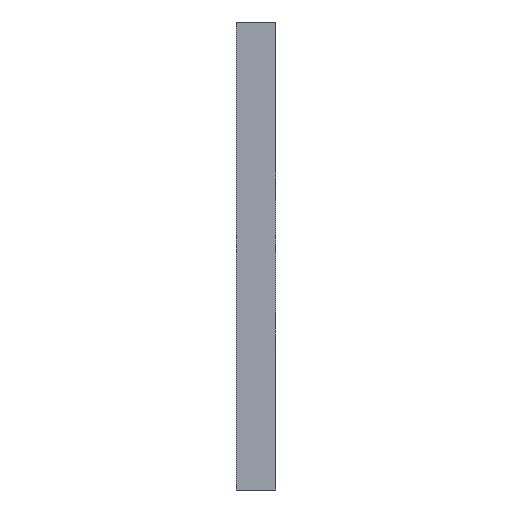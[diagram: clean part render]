
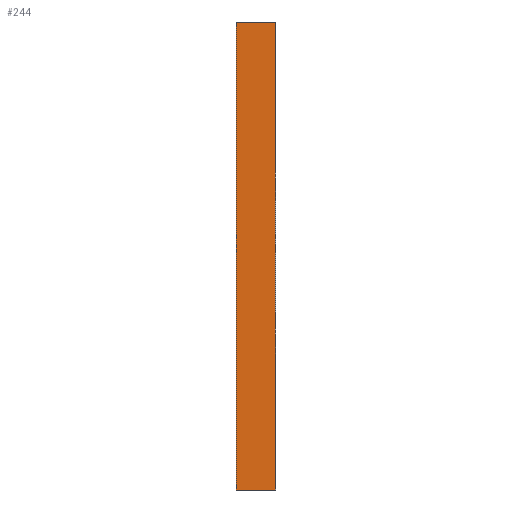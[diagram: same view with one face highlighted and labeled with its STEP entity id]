
A CAD part, left-side view. The second image highlights one B-rep face of the part: STEP entity #244.
In plain terms, the highlighted planar face has unit normal (-1, 0, 0).
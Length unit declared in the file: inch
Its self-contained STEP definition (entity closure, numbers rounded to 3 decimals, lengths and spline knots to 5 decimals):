
#4 = AXIS2_PLACEMENT_3D ( 'NONE', #122, #630, #551 ) ;
#59 = DIRECTION ( 'NONE',  ( 0., 0., 1. ) ) ;
#67 = ORIENTED_EDGE ( 'NONE', *, *, #640, .F. ) ;
#68 = CARTESIAN_POINT ( 'NONE',  ( -2.93226, 0.25, -0.71502 ) ) ;
#109 = PLANE ( 'NONE',  #4 ) ;
#122 = CARTESIAN_POINT ( 'NONE',  ( -2.93226, 0.25, -0.71502 ) ) ;
#124 = ORIENTED_EDGE ( 'NONE', *, *, #795, .F. ) ;
#162 = CARTESIAN_POINT ( 'NONE',  ( -2.93226, 0.25, -0.71502 ) ) ;
#167 = LINE ( 'NONE', #506, #603 ) ;
#176 = VECTOR ( 'NONE', #327, 39.37008 ) ;
#238 = CARTESIAN_POINT ( 'NONE',  ( -2.93226, 0., 2.28498 ) ) ;
#244 = ADVANCED_FACE ( 'NONE', ( #270 ), #109, .F. ) ;
#259 = DIRECTION ( 'NONE',  ( 0., -1., 0. ) ) ;
#266 = ORIENTED_EDGE ( 'NONE', *, *, #686, .T. ) ;
#270 = FACE_OUTER_BOUND ( 'NONE', #623, .T. ) ;
#280 = LINE ( 'NONE', #68, #581 ) ;
#325 = CARTESIAN_POINT ( 'NONE',  ( -2.93226, 0., -0.71502 ) ) ;
#327 = DIRECTION ( 'NONE',  ( 0., -1., 0. ) ) ;
#352 = VECTOR ( 'NONE', #585, 39.37008 ) ;
#354 = LINE ( 'NONE', #162, #176 ) ;
#385 = VERTEX_POINT ( 'NONE', #238 ) ;
#430 = VERTEX_POINT ( 'NONE', #475 ) ;
#475 = CARTESIAN_POINT ( 'NONE',  ( -2.93226, 0.25, -0.71502 ) ) ;
#483 = VERTEX_POINT ( 'NONE', #524 ) ;
#493 = LINE ( 'NONE', #325, #352 ) ;
#506 = CARTESIAN_POINT ( 'NONE',  ( -2.93226, 0.25, 2.28498 ) ) ;
#507 = VERTEX_POINT ( 'NONE', #528 ) ;
#524 = CARTESIAN_POINT ( 'NONE',  ( -2.93226, 0.25, 2.28498 ) ) ;
#528 = CARTESIAN_POINT ( 'NONE',  ( -2.93226, 0., -0.71502 ) ) ;
#551 = DIRECTION ( 'NONE',  ( 0., 0., -1. ) ) ;
#581 = VECTOR ( 'NONE', #59, 39.37008 ) ;
#585 = DIRECTION ( 'NONE',  ( 0., 0., 1. ) ) ;
#603 = VECTOR ( 'NONE', #259, 39.37008 ) ;
#623 = EDGE_LOOP ( 'NONE', ( #266, #67, #124, #802 ) ) ;
#630 = DIRECTION ( 'NONE',  ( 1., 0., 0. ) ) ;
#640 = EDGE_CURVE ( 'NONE', #483, #385, #167, .T. ) ;
#686 = EDGE_CURVE ( 'NONE', #507, #385, #493, .T. ) ;
#751 = EDGE_CURVE ( 'NONE', #430, #507, #354, .T. ) ;
#795 = EDGE_CURVE ( 'NONE', #430, #483, #280, .T. ) ;
#802 = ORIENTED_EDGE ( 'NONE', *, *, #751, .T. ) ;
